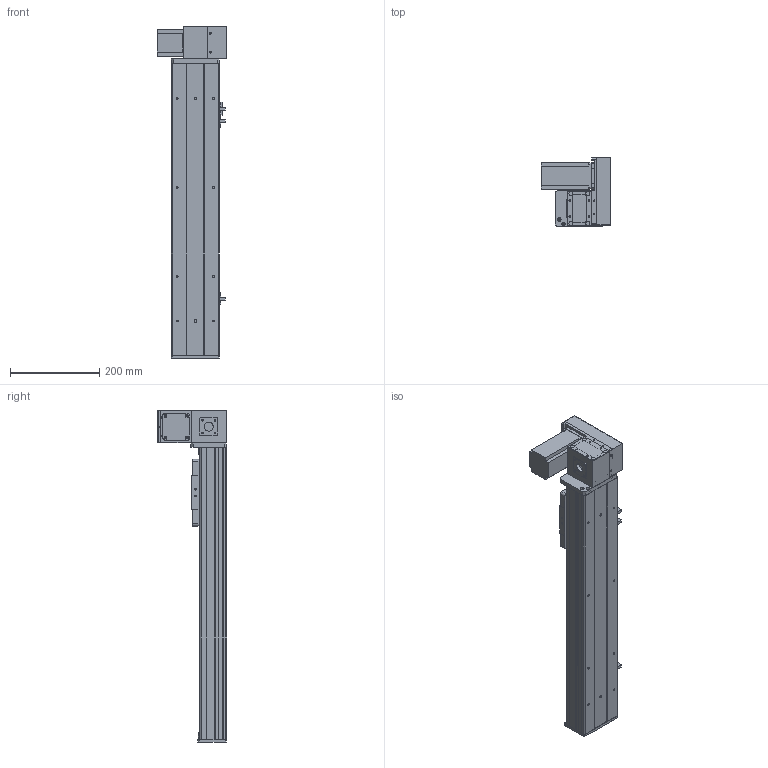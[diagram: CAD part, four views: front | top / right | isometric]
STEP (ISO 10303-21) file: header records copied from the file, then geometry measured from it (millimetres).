
FILE_DESCRIPTION (( 'STEP AP203' ), '1' );
FILE_NAME ('Y10CB-D90-S400-UR-P400W.STEP', '2020-02-16T03:05:07', ( '微软用户' ), ( '微软中国' ), 'SwSTEP 2.0', 'SolidWorks 2017', '' );
FILE_SCHEMA (( 'CONFIG_CONTROL_DESIGN' ));
Length unit declared in the file: millimetre
Products named in the file (18): san松下电机400不带刹车----; 10CB9-掛极; 0B-源倛裔啣; 10CB-耜裔; 0B-埴倛裔啣; Y135C-陔俋离換覜結え-; 10CB-詩湍-; Y100-135俋离換覜ん--; Y10CB- 掛极耜裔啣-毀---; Y10B--々湍喘謫眊--666; 0CB-雄赽釱---; Y10B-耜蚾蟀諉啣----; 0Cb-俋欶---; 00B-俋欶BM--; Y10B-々湍喘謫眊楊擘啣--; Y10CB-D90-S400-UR-P400W; 0B-萇儂楊擘啣; Y10C---詩湍揤啣
Assembly tree (21 placements, depth 2):
  Y10CB-D90-S400-UR-P400W
    0CB-雄赽釱---
    0Cb-俋欶---
    Y10B-々湍喘謫眊楊擘啣--
    0B-萇儂楊擘啣
    san松下电机400不带刹车----
    0B-源倛裔啣
    0B-埴倛裔啣
    10CB-詩湍-
    Y10CB- 掛极耜裔啣-毀---  x2
    Y10C---詩湍揤啣  x2
    10CB9-掛极
    10CB-耜裔
    Y135C-陔俋离換覜結え-
    Y100-135俋离換覜ん--  x3
    Y10B--々湍喘謫眊--666
    Y10B-耜蚾蟀諉啣----
    00B-俋欶BM--
Bounding box: 157 x 155.5 x 746 mm (x, y, z)
Volume: 2088885.9 mm3; surface area: 883343.1 mm2
Topology: 21 solids, 21 shells, 954 faces, 2523 edges, 1658 vertices
Faces by surface type: plane 471, cylinder 459, cone 24
Entity records: 29412 total; most frequent: CARTESIAN_POINT 5025, DIRECTION 4794, ORIENTED_EDGE 4516, EDGE_CURVE 2258, AXIS2_PLACEMENT_3D 1717, VERTEX_POINT 1484, VECTOR 1360, LINE 1360
